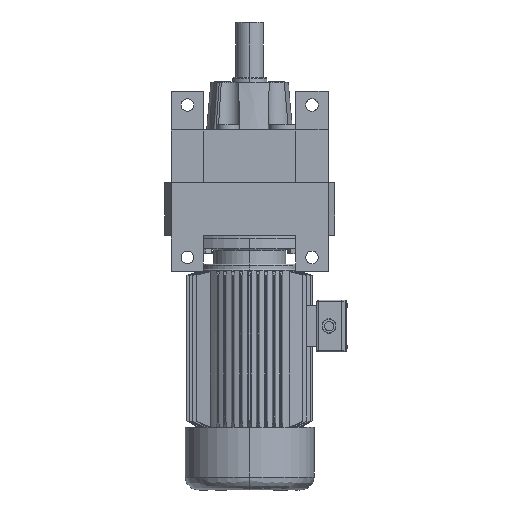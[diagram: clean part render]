
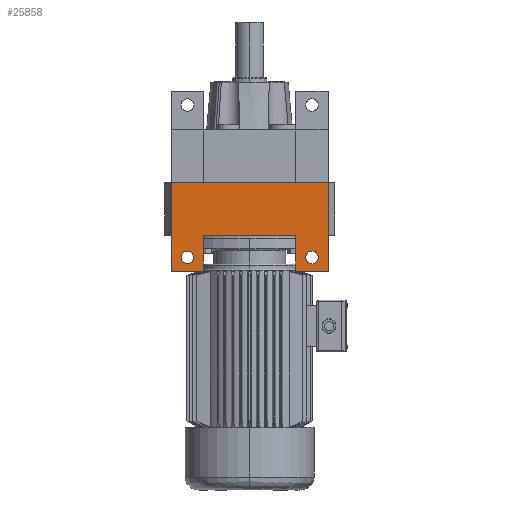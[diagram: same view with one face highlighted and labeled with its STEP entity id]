
A CAD part, front view. The second image highlights one B-rep face of the part: STEP entity #25858.
In plain terms, the highlighted planar face has unit normal (0, -1, 0).
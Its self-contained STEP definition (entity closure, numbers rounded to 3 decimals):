
#456 = LINE ( 'NONE', #33065, #25198 ) ;
#1015 = CARTESIAN_POINT ( 'NONE',  ( 85., -115., 57. ) ) ;
#2055 = ORIENTED_EDGE ( 'NONE', *, *, #38024, .F. ) ;
#2610 = ORIENTED_EDGE ( 'NONE', *, *, #29587, .F. ) ;
#2728 = LINE ( 'NONE', #11596, #38975 ) ;
#3784 = LINE ( 'NONE', #40128, #7616 ) ;
#3926 = DIRECTION ( 'NONE',  ( 0., 0., -1. ) ) ;
#4274 = FACE_BOUND ( 'NONE', #7235, .T. ) ;
#4429 = EDGE_LOOP ( 'NONE', ( #13218, #2610 ) ) ;
#4986 = DIRECTION ( 'NONE',  ( -1., 0., 0. ) ) ;
#7140 = VERTEX_POINT ( 'NONE', #20661 ) ;
#7235 = EDGE_LOOP ( 'NONE', ( #24214, #2055 ) ) ;
#7616 = VECTOR ( 'NONE', #4986, 1000. ) ;
#7680 = CARTESIAN_POINT ( 'NONE',  ( 50., -115., -39. ) ) ;
#8071 = LINE ( 'NONE', #19500, #44319 ) ;
#8092 = FACE_OUTER_BOUND ( 'NONE', #10392, .T. ) ;
#8093 = DIRECTION ( 'NONE',  ( 0., 0., 1. ) ) ;
#8236 = EDGE_CURVE ( 'NONE', #30755, #33390, #41980, .T. ) ;
#8376 = VECTOR ( 'NONE', #8093, 1000. ) ;
#9671 = AXIS2_PLACEMENT_3D ( 'NONE', #40052, #12415, #36984 ) ;
#10246 = CARTESIAN_POINT ( 'NONE',  ( -50., -115., -39. ) ) ;
#10392 = EDGE_LOOP ( 'NONE', ( #17138, #29725, #29053, #29822, #45184, #23106, #39566, #15002 ) ) ;
#10677 = VECTOR ( 'NONE', #34644, 1000. ) ;
#11041 = EDGE_CURVE ( 'NONE', #24300, #41559, #456, .T. ) ;
#11292 = DIRECTION ( 'NONE',  ( 0., 0., 1. ) ) ;
#11596 = CARTESIAN_POINT ( 'NONE',  ( 50., -115., 57. ) ) ;
#12060 = VERTEX_POINT ( 'NONE', #17635 ) ;
#12415 = DIRECTION ( 'NONE',  ( 0., -1., 0. ) ) ;
#12951 = EDGE_CURVE ( 'NONE', #24300, #7140, #16085, .T. ) ;
#13218 = ORIENTED_EDGE ( 'NONE', *, *, #44088, .F. ) ;
#13421 = CARTESIAN_POINT ( 'NONE',  ( -67.5, -115., -17.25 ) ) ;
#13867 = DIRECTION ( 'NONE',  ( 0., -1., 0. ) ) ;
#15002 = ORIENTED_EDGE ( 'NONE', *, *, #8236, .F. ) ;
#15362 = DIRECTION ( 'NONE',  ( 0., -1., 0. ) ) ;
#15690 = DIRECTION ( 'NONE',  ( -1., 0., 0. ) ) ;
#16085 = LINE ( 'NONE', #29196, #8376 ) ;
#16271 = CARTESIAN_POINT ( 'NONE',  ( 67.5, -115., -30.75 ) ) ;
#17138 = ORIENTED_EDGE ( 'NONE', *, *, #29471, .F. ) ;
#17395 = VERTEX_POINT ( 'NONE', #16271 ) ;
#17635 = CARTESIAN_POINT ( 'NONE',  ( -67.5, -115., -30.75 ) ) ;
#17717 = CARTESIAN_POINT ( 'NONE',  ( 73.6, -115., 57. ) ) ;
#18173 = VERTEX_POINT ( 'NONE', #24339 ) ;
#18355 = VERTEX_POINT ( 'NONE', #25854 ) ;
#18469 = DIRECTION ( 'NONE',  ( 0., 0., 1. ) ) ;
#19059 = VECTOR ( 'NONE', #44286, 1000. ) ;
#19407 = EDGE_CURVE ( 'NONE', #43186, #19672, #2728, .T. ) ;
#19500 = CARTESIAN_POINT ( 'NONE',  ( -85., -115., 57. ) ) ;
#19672 = VERTEX_POINT ( 'NONE', #26343 ) ;
#20507 = CARTESIAN_POINT ( 'NONE',  ( -85., -115., -39. ) ) ;
#20661 = CARTESIAN_POINT ( 'NONE',  ( -50., -115., 0. ) ) ;
#21403 = DIRECTION ( 'NONE',  ( -1., 0., 0. ) ) ;
#21958 = EDGE_CURVE ( 'NONE', #41559, #18355, #8071, .T. ) ;
#22274 = LINE ( 'NONE', #34492, #10677 ) ;
#23106 = ORIENTED_EDGE ( 'NONE', *, *, #19407, .F. ) ;
#23408 = DIRECTION ( 'NONE',  ( 0., 0., 1. ) ) ;
#23988 = AXIS2_PLACEMENT_3D ( 'NONE', #17717, #42256, #21403 ) ;
#24214 = ORIENTED_EDGE ( 'NONE', *, *, #26083, .F. ) ;
#24300 = VERTEX_POINT ( 'NONE', #10246 ) ;
#24339 = CARTESIAN_POINT ( 'NONE',  ( 67.5, -115., -17.25 ) ) ;
#24996 = CARTESIAN_POINT ( 'NONE',  ( 85., -115., 57. ) ) ;
#25105 = CIRCLE ( 'NONE', #26327, 6.75 ) ;
#25198 = VECTOR ( 'NONE', #15690, 1000. ) ;
#25854 = CARTESIAN_POINT ( 'NONE',  ( -85., -115., 57. ) ) ;
#25858 = ADVANCED_FACE ( 'NONE', ( #8092, #4274, #45471 ), #42412, .F. ) ;
#25934 = AXIS2_PLACEMENT_3D ( 'NONE', #34887, #13867, #45522 ) ;
#26083 = EDGE_CURVE ( 'NONE', #18173, #17395, #25105, .T. ) ;
#26327 = AXIS2_PLACEMENT_3D ( 'NONE', #27413, #30343, #23408 ) ;
#26343 = CARTESIAN_POINT ( 'NONE',  ( 50., -115., 0. ) ) ;
#26463 = EDGE_CURVE ( 'NONE', #19672, #7140, #22274, .T. ) ;
#27413 = CARTESIAN_POINT ( 'NONE',  ( 67.5, -115., -24. ) ) ;
#27525 = CARTESIAN_POINT ( 'NONE',  ( 85., -115., -39. ) ) ;
#28455 = LINE ( 'NONE', #30072, #19059 ) ;
#28851 = CIRCLE ( 'NONE', #9671, 6.75 ) ;
#29053 = ORIENTED_EDGE ( 'NONE', *, *, #11041, .F. ) ;
#29196 = CARTESIAN_POINT ( 'NONE',  ( -50., -115., 156. ) ) ;
#29471 = EDGE_CURVE ( 'NONE', #18355, #30755, #28455, .T. ) ;
#29587 = EDGE_CURVE ( 'NONE', #12060, #29654, #38201, .T. ) ;
#29654 = VERTEX_POINT ( 'NONE', #13421 ) ;
#29725 = ORIENTED_EDGE ( 'NONE', *, *, #21958, .F. ) ;
#29822 = ORIENTED_EDGE ( 'NONE', *, *, #12951, .T. ) ;
#30072 = CARTESIAN_POINT ( 'NONE',  ( 73.6, -115., 57. ) ) ;
#30343 = DIRECTION ( 'NONE',  ( 0., -1., 0. ) ) ;
#30755 = VERTEX_POINT ( 'NONE', #1015 ) ;
#32897 = CARTESIAN_POINT ( 'NONE',  ( 67.5, -115., -24. ) ) ;
#33065 = CARTESIAN_POINT ( 'NONE',  ( 73.6, -115., -39. ) ) ;
#33390 = VERTEX_POINT ( 'NONE', #27525 ) ;
#34343 = VECTOR ( 'NONE', #3926, 1000. ) ;
#34492 = CARTESIAN_POINT ( 'NONE',  ( 43.48, -115., 0. ) ) ;
#34644 = DIRECTION ( 'NONE',  ( -1., 0., 0. ) ) ;
#34887 = CARTESIAN_POINT ( 'NONE',  ( -67.5, -115., -24. ) ) ;
#35807 = EDGE_CURVE ( 'NONE', #33390, #43186, #3784, .T. ) ;
#36984 = DIRECTION ( 'NONE',  ( 0., 0., 1. ) ) ;
#37229 = CIRCLE ( 'NONE', #38079, 6.75 ) ;
#38024 = EDGE_CURVE ( 'NONE', #17395, #18173, #37229, .T. ) ;
#38079 = AXIS2_PLACEMENT_3D ( 'NONE', #32897, #15362, #18469 ) ;
#38201 = CIRCLE ( 'NONE', #25934, 6.75 ) ;
#38975 = VECTOR ( 'NONE', #11292, 1000. ) ;
#39566 = ORIENTED_EDGE ( 'NONE', *, *, #35807, .F. ) ;
#40052 = CARTESIAN_POINT ( 'NONE',  ( -67.5, -115., -24. ) ) ;
#40128 = CARTESIAN_POINT ( 'NONE',  ( 73.6, -115., -39. ) ) ;
#40904 = DIRECTION ( 'NONE',  ( 0., 0., 1. ) ) ;
#41559 = VERTEX_POINT ( 'NONE', #20507 ) ;
#41980 = LINE ( 'NONE', #24996, #34343 ) ;
#42256 = DIRECTION ( 'NONE',  ( 0., 1., 0. ) ) ;
#42412 = PLANE ( 'NONE',  #23988 ) ;
#43186 = VERTEX_POINT ( 'NONE', #7680 ) ;
#44088 = EDGE_CURVE ( 'NONE', #29654, #12060, #28851, .T. ) ;
#44286 = DIRECTION ( 'NONE',  ( 1., 0., 0. ) ) ;
#44319 = VECTOR ( 'NONE', #40904, 1000. ) ;
#45184 = ORIENTED_EDGE ( 'NONE', *, *, #26463, .F. ) ;
#45471 = FACE_BOUND ( 'NONE', #4429, .T. ) ;
#45522 = DIRECTION ( 'NONE',  ( 0., 0., 1. ) ) ;
